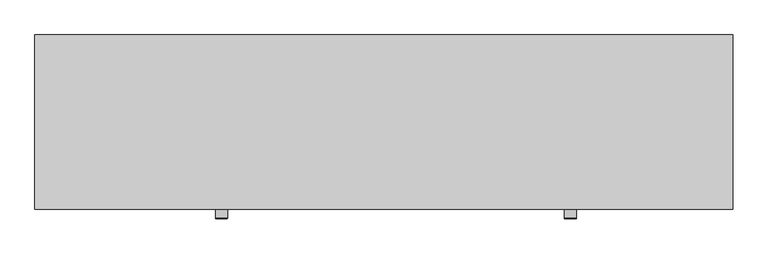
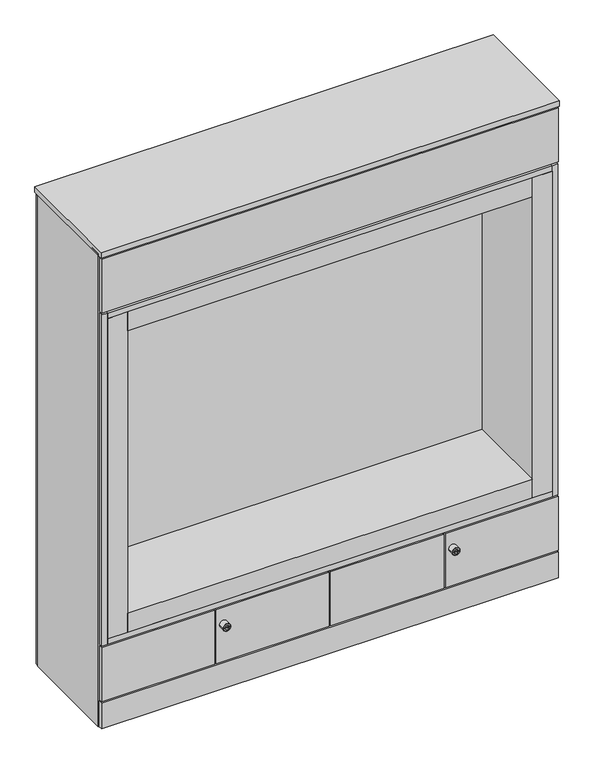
"""IFC4 building model written with IfcOpenShell, lengths in millimetres: furniture geometry, Furniture_Storage_Spacestor_SignatureStoragewall : Snugglestor Double."""

from ifc_helpers import new_model, si_unit, point, frame, origin, origin_with_axes, place, context, project, spatial, polyline, circle_curve, ellipse_curve, trimmed, outline, extrude, source, transform, mapped, element, save
from ifc_brep_helpers import plane_surface, cylinder_surface, revolved_surface, advanced_brep


def furniture_8fe791fa(model_context):
    return source(origin(), model_context, "Body", "SolidModel", [
        extrude(outline(polyline([(1996.5, 459.0), (3.5, 459.0), (3.5, 477.0), (1996.5, 477.0), (1996.5, 459.0)])), origin_with_axes(), (0.0, 0.0, 1.0), 2166.0),
        extrude(outline(polyline([(1996.5, -18.0), (3.5, -18.0), (3.5, 0.0), (1996.5, 0.0), (1996.5, -18.0)])), origin_with_axes(), (0.0, 0.0, 1.0), 118.0),
        extrude(outline(polyline([(2000.0, -20.5), (0.0, -20.5), (0.0, 479.5), (2000.0, 479.5), (2000.0, -20.5)])), frame((0.0, 0.0, 2173.0), z_axis=(0.0, 0.0, 1.0), x_axis=(1.0, 0.0, 0.0)), (0.0, 0.0, 1.0), 25.5),
        extrude(outline(polyline([(2000.0, 0.0), (1989.0, 0.0), (1989.0, 459.0), (2000.0, 459.0), (2000.0, 0.0)])), origin_with_axes(), (0.0, 0.0, 1.0), 2180.5),
        extrude(outline(polyline([(11.0, 0.0), (0.0, 0.0), (0.0, 459.0), (11.0, 459.0), (11.0, 0.0)])), origin_with_axes(), (0.0, 0.0, 1.0), 2180.5),
        extrude(outline(polyline([(1996.5, -18.0), (3.5, -18.0), (3.5, 0.0), (1996.5, 0.0), (1996.5, -18.0)])), frame((0.0, 0.0, 1917.0), z_axis=(0.0, 0.0, 1.0), x_axis=(1.0, 0.0, 0.0)), (0.0, 0.0, 1.0), 249.0),
        extrude(outline(polyline([(1989.0, 0.0), (11.0, 0.0), (11.0, 459.0), (1989.0, 459.0), (1989.0, 0.0)])), frame((0.0, 0.0, 1902.5), z_axis=(0.0, 0.0, 1.0), x_axis=(1.0, 0.0, 0.0)), (0.0, 0.0, 1.0), 22.0),
        extrude(outline(polyline([(1970.5, 398.0), (1970.5, 361.0), (29.5, 361.0), (29.5, 398.0), (1970.5, 398.0)])), frame((0.0, 0.0, 406.5), z_axis=(0.0, 0.0, 1.0), x_axis=(1.0, 0.0, 0.0)), (0.0, 0.0, 1.0), 1476.0),
        extrude(outline(polyline([(1970.5, -18.0), (1883.5, -18.0), (1883.5, 361.0), (1970.5, 361.0), (1970.5, -18.0)])), frame((0.0, 0.0, 406.5), z_axis=(0.0, 0.0, 1.0), x_axis=(1.0, 0.0, 0.0)), (0.0, 0.0, 1.0), 1476.0),
        extrude(outline(polyline([(116.5, -18.0), (29.5, -18.0), (29.5, 361.0), (116.5, 361.0), (116.5, -18.0)])), frame((0.0, 0.0, 406.5), z_axis=(0.0, 0.0, 1.0), x_axis=(1.0, 0.0, 0.0)), (0.0, 0.0, 1.0), 1476.0),
        extrude(outline(polyline([(1883.5, -18.0), (116.5, -18.0), (116.5, 361.0), (1883.5, 361.0), (1883.5, -18.0)])), frame((0.0, 0.0, 406.5), z_axis=(0.0, 0.0, 1.0), x_axis=(1.0, 0.0, 0.0)), (0.0, 0.0, 1.0), 87.0),
        extrude(outline(polyline([(1883.5, -18.0), (116.5, -18.0), (116.5, 361.0), (1883.5, 361.0), (1883.5, -18.0)])), frame((0.0, 0.0, 1795.5), z_axis=(0.0, 0.0, 1.0), x_axis=(1.0, 0.0, 0.0)), (0.0, 0.0, 1.0), 87.0),
        extrude(outline(polyline([(1003.5, -18.0), (1003.5, 0.0), (1496.5, 0.0), (1496.5, -18.0), (1003.5, -18.0)])), frame((0.0, 0.0, 125.0), z_axis=(0.0, 0.0, 1.0), x_axis=(1.0, 0.0, 0.0)), (0.0, 0.0, 1.0), 249.0),
        extrude(outline(polyline([(1996.5, -18.0), (1503.5, -18.0), (1503.5, 0.0), (1996.5, 0.0), (1996.5, -18.0)])), frame((0.0, 0.0, 125.0), z_axis=(0.0, 0.0, 1.0), x_axis=(1.0, 0.0, 0.0)), (0.0, 0.0, 1.0), 249.0),
        advanced_brep(
        [(1552.0, -45.3116344, 299.0), (1518.0, -45.3116344, 299.0), (1518.0, -18.0, 299.0), (1552.0, -18.0, 299.0), (1535.0, -18.0, 299.0), (1543.9747319, -46.3150077, 299.0), (1526.0252681, -46.3150077, 299.0), (1519.0033734, -46.3150077, 299.0), (1550.9966266, -46.3150077, 299.0), (1543.9747319, -47.4703043, 299.0), (1526.0252681, -47.4703043, 299.0), (1539.8245152, -47.4703043, 299.0), (1539.8245152, -47.4703043, 297.6366562), (1530.1754848, -47.4703043, 297.6366562), (1530.1754848, -47.4703043, 299.0), (1530.1754848, -47.4703043, 300.3633438), (1539.8245152, -47.4703043, 300.3633438), (1530.1754848, -27.8604291, 297.6366562), (1539.8245152, -27.8604291, 297.6366562), (1539.8245152, -27.8604291, 300.3633438), (1530.1754848, -27.8604291, 300.3633438)],
        [
            (0, 1, circle_curve(frame((1535.0, -45.3116344, 299.0), z_axis=(0.0, 1.0, 0.0), x_axis=(-1.0, 0.0, 0.0)), 17.0)),
            (1, 2),
            (2, 3, circle_curve(frame((1535.0, -18.0, 299.0), z_axis=(0.0, -1.0, 0.0), x_axis=(-1.0, 0.0, 0.0)), 17.0)),
            (3, 0),
            (1, 0, circle_curve(frame((1535.0, -45.3116344, 299.0), z_axis=(0.0, 1.0, 0.0), x_axis=(-1.0, 0.0, 0.0)), 17.0)),
            (3, 2, circle_curve(frame((1535.0, -18.0, 299.0), z_axis=(0.0, -1.0, 0.0), x_axis=(-1.0, 0.0, 0.0)), 17.0)),
            (2, 4),
            (4, 3),
            (5, 6, circle_curve(frame((1535.0, -46.3150077, 299.0), z_axis=(0.0, 1.0, 0.0), x_axis=(-1.0, 0.0, 0.0)), 8.9747319)),
            (6, 7),
            (7, 8, circle_curve(frame((1535.0, -46.3150077, 299.0), z_axis=(0.0, -1.0, 0.0), x_axis=(-1.0, 0.0, 0.0)), 15.9966266)),
            (8, 5),
            (6, 5, circle_curve(frame((1535.0, -46.3150077, 299.0), z_axis=(0.0, 1.0, 0.0), x_axis=(-1.0, 0.0, 0.0)), 8.9747319)),
            (8, 7, circle_curve(frame((1535.0, -46.3150077, 299.0), z_axis=(0.0, -1.0, 0.0), x_axis=(-1.0, 0.0, 0.0)), 15.9966266)),
            (0, 8, circle_curve(frame((1550.9966266, -45.3116344, 299.0), z_axis=(0.0, 0.0, -1.0), x_axis=(1.0, 0.0, 0.0)), 1.0033734)),
            (7, 1, circle_curve(frame((1519.0033734, -45.3116344, 299.0), z_axis=(0.0, 0.0, -1.0), x_axis=(-1.0, 0.0, 0.0)), 1.0033734)),
            (5, 9),
            (9, 10, circle_curve(frame((1535.0, -47.4703043, 299.0), z_axis=(0.0, 1.0, 0.0), x_axis=(-1.0, 0.0, 0.0)), 8.9747319)),
            (10, 6),
            (10, 9, circle_curve(frame((1535.0, -47.4703043, 299.0), z_axis=(0.0, 1.0, 0.0), x_axis=(-1.0, 0.0, 0.0)), 8.9747319)),
            (9, 11),
            (11, 12),
            (12, 13),
            (13, 14),
            (14, 10),
            (14, 15),
            (15, 16),
            (16, 11),
            (17, 18),
            (18, 19),
            (19, 20),
            (20, 17),
            (17, 13),
            (12, 18),
            (16, 19),
            (15, 20),
        ],
        [
            cylinder_surface(frame((1535.0, -2627.0581012, 299.0), z_axis=(0.0, -1.0, 0.0), x_axis=(-1.0, 0.0, 0.0)), 17.0),
            plane_surface(frame((1535.0, -18.0, 299.0), z_axis=(0.0, 1.0, 0.0), x_axis=(-1.0, 0.0, 0.0))),
            plane_surface(frame((1535.0, -46.3150077, 299.0), z_axis=(0.0, -1.0, 0.0), x_axis=(-1.0, 0.0, 0.0))),
            revolved_surface(trimmed(ellipse_curve(frame((1519.0033734, -45.3116344, 299.0), z_axis=(0.0, 0.0, 1.0), x_axis=(-1.0, 0.0, 0.0)), 1.0033734, 1.0033734), [point((1518.0, -45.3116344, 299.0))], [point((1519.0033734, -46.3150077, 299.0))], True, "CARTESIAN"), (1535.0, -2627.0581012, 299.0), (0.0, -1.0, 0.0)),
            cylinder_surface(frame((1535.0, -2627.0581012, 299.0), z_axis=(0.0, -1.0, 0.0), x_axis=(-1.0, 0.0, 0.0)), 8.9747319),
            plane_surface(frame((1535.0, -47.4703043, 299.0), z_axis=(0.0, -1.0, 0.0), x_axis=(-1.0, 0.0, 0.0))),
            plane_surface(frame((1539.4565249, -27.8604291, 297.6366562), z_axis=(0.0, -1.0, 0.0), x_axis=(-1.0, 0.0, 0.0))),
            plane_surface(frame((1530.1754848, -49.2046383, 297.6366562), z_axis=(0.0, 0.0, 1.0), x_axis=(0.0, 1.0, 0.0))),
            plane_surface(frame((1539.8245152, -49.2046383, 297.6366562), z_axis=(-1.0, 0.0, 0.0), x_axis=(0.0, 1.0, 0.0))),
            plane_surface(frame((1539.8245152, -49.2046383, 300.3633438), z_axis=(0.0, 0.0, -1.0), x_axis=(0.0, 1.0, 0.0))),
            plane_surface(frame((1530.1754848, -49.2046383, 300.3633438), z_axis=(1.0, 0.0, 0.0), x_axis=(0.0, 1.0, 0.0))),
        ],
        [
            (0, [[1, 2, 3, 4]]),
            (0, [[-2, 5, -4, 6]]),
            (1, [[-3, 7, 8]]),
            (1, [[-6, -8, -7]]),
            (2, [[9, 10, 11, 12]]),
            (2, [[-10, 13, -12, 14]]),
            (3, [[-1, 15, -11, 16]]),
            (3, [[-5, -16, -14, -15]]),
            (4, [[-9, 17, 18, 19]]),
            (4, [[-13, -19, 20, -17]]),
            (5, [[-18, 21, 22, 23, 24, 25]]),
            (5, [[-20, -25, 26, 27, 28, -21]]),
            (6, [[29, 30, 31, 32]]),
            (7, [[-29, 33, -23, 34]]),
            (8, [[-30, -34, -22, -28, 35]]),
            (9, [[-31, -35, -27, 36]]),
            (10, [[-32, -36, -26, -24, -33]]),
        ],
    ),
        extrude(outline(polyline([(1989.0, 0.0), (11.0, 0.0), (11.0, 459.0), (1989.0, 459.0), (1989.0, 0.0)])), frame((0.0, 0.0, 110.5), z_axis=(0.0, 0.0, 1.0), x_axis=(1.0, 0.0, 0.0)), (0.0, 0.0, 1.0), 22.0),
        extrude(outline(polyline([(1989.0, 0.0), (11.0, 0.0), (11.0, 459.0), (1989.0, 459.0), (1989.0, 0.0)])), frame((0.0, 0.0, 2158.0), z_axis=(0.0, 0.0, 1.0), x_axis=(1.0, 0.0, 0.0)), (0.0, 0.0, 1.0), 22.0),
        extrude(outline(polyline([(1989.0, 0.0), (11.0, 0.0), (11.0, 459.0), (1989.0, 459.0), (1989.0, 0.0)])), frame((0.0, 0.0, 366.5), z_axis=(0.0, 0.0, 1.0), x_axis=(1.0, 0.0, 0.0)), (0.0, 0.0, 1.0), 22.0),
        extrude(outline(polyline([(1970.5, -18.0), (29.5, -18.0), (29.5, 416.0), (1970.5, 416.0), (1970.5, -18.0)])), frame((0.0, 0.0, 381.5), z_axis=(0.0, 0.0, 1.0), x_axis=(1.0, 0.0, 0.0)), (0.0, 0.0, 1.0), 25.0),
        extrude(outline(polyline([(29.5, -18.0), (4.5, -18.0), (4.5, 416.0), (29.5, 416.0), (29.5, -18.0)])), frame((0.0, 0.0, 381.0), z_axis=(0.0, 0.0, 1.0), x_axis=(1.0, 0.0, 0.0)), (0.0, 0.0, 1.0), 1527.0),
        extrude(outline(polyline([(1995.5, -18.0), (1970.5, -18.0), (1970.5, 416.0), (1995.5, 416.0), (1995.5, -18.0)])), frame((0.0, 0.0, 381.0), z_axis=(0.0, 0.0, 1.0), x_axis=(1.0, 0.0, 0.0)), (0.0, 0.0, 1.0), 1527.0),
        extrude(outline(polyline([(1995.5, 416.0), (4.5, 416.0), (4.5, 434.0), (1995.5, 434.0), (1995.5, 416.0)])), frame((0.0, 0.0, 381.0), z_axis=(0.0, 0.0, 1.0), x_axis=(1.0, 0.0, 0.0)), (0.0, 0.0, 1.0), 1527.0),
        extrude(outline(polyline([(1970.5, -18.0), (29.5, -18.0), (29.5, 416.0), (1970.5, 416.0), (1970.5, -18.0)])), frame((0.0, 0.0, 1882.5), z_axis=(0.0, 0.0, 1.0), x_axis=(1.0, 0.0, 0.0)), (0.0, 0.0, 1.0), 25.0),
        extrude(outline(polyline([(3.5, -18.0), (3.5, 0.0), (496.5, 0.0), (496.5, -18.0), (3.5, -18.0)])), frame((0.0, 0.0, 125.0), z_axis=(0.0, 0.0, 1.0), x_axis=(1.0, 0.0, 0.0)), (0.0, 0.0, 1.0), 249.0),
        extrude(outline(polyline([(996.5, -18.0), (503.5, -18.0), (503.5, 0.0), (996.5, 0.0), (996.5, -18.0)])), frame((0.0, 0.0, 125.0), z_axis=(0.0, 0.0, 1.0), x_axis=(1.0, 0.0, 0.0)), (0.0, 0.0, 1.0), 249.0),
        advanced_brep(
        [(552.0, -45.3116344, 299.0), (518.0, -45.3116344, 299.0), (518.0, -18.0, 299.0), (552.0, -18.0, 299.0), (535.0, -18.0, 299.0), (543.9747319, -46.3150077, 299.0), (526.0252681, -46.3150077, 299.0), (519.0033734, -46.3150077, 299.0), (550.9966266, -46.3150077, 299.0), (543.9747319, -47.4703043, 299.0), (526.0252681, -47.4703043, 299.0), (539.8245152, -47.4703043, 299.0), (539.8245152, -47.4703043, 297.6366562), (530.1754848, -47.4703043, 297.6366562), (530.1754848, -47.4703043, 299.0), (530.1754848, -47.4703043, 300.3633438), (539.8245152, -47.4703043, 300.3633438), (530.1754848, -27.8604291, 297.6366562), (539.8245152, -27.8604291, 297.6366562), (539.8245152, -27.8604291, 300.3633438), (530.1754848, -27.8604291, 300.3633438)],
        [
            (0, 1, circle_curve(frame((535.0, -45.3116344, 299.0), z_axis=(0.0, 1.0, 0.0), x_axis=(-1.0, 0.0, 0.0)), 17.0)),
            (1, 2),
            (2, 3, circle_curve(frame((535.0, -18.0, 299.0), z_axis=(0.0, -1.0, 0.0), x_axis=(-1.0, 0.0, 0.0)), 17.0)),
            (3, 0),
            (1, 0, circle_curve(frame((535.0, -45.3116344, 299.0), z_axis=(0.0, 1.0, 0.0), x_axis=(-1.0, 0.0, 0.0)), 17.0)),
            (3, 2, circle_curve(frame((535.0, -18.0, 299.0), z_axis=(0.0, -1.0, 0.0), x_axis=(-1.0, 0.0, 0.0)), 17.0)),
            (2, 4),
            (4, 3),
            (5, 6, circle_curve(frame((535.0, -46.3150077, 299.0), z_axis=(0.0, 1.0, 0.0), x_axis=(-1.0, 0.0, 0.0)), 8.9747319)),
            (6, 7),
            (7, 8, circle_curve(frame((535.0, -46.3150077, 299.0), z_axis=(0.0, -1.0, 0.0), x_axis=(-1.0, 0.0, 0.0)), 15.9966266)),
            (8, 5),
            (6, 5, circle_curve(frame((535.0, -46.3150077, 299.0), z_axis=(0.0, 1.0, 0.0), x_axis=(-1.0, 0.0, 0.0)), 8.9747319)),
            (8, 7, circle_curve(frame((535.0, -46.3150077, 299.0), z_axis=(0.0, -1.0, 0.0), x_axis=(-1.0, 0.0, 0.0)), 15.9966266)),
            (0, 8, circle_curve(frame((550.9966266, -45.3116344, 299.0), z_axis=(0.0, 0.0, -1.0), x_axis=(1.0, 0.0, 0.0)), 1.0033734)),
            (7, 1, circle_curve(frame((519.0033734, -45.3116344, 299.0), z_axis=(0.0, 0.0, -1.0), x_axis=(-1.0, 0.0, 0.0)), 1.0033734)),
            (5, 9),
            (9, 10, circle_curve(frame((535.0, -47.4703043, 299.0), z_axis=(0.0, 1.0, 0.0), x_axis=(-1.0, 0.0, 0.0)), 8.9747319)),
            (10, 6),
            (10, 9, circle_curve(frame((535.0, -47.4703043, 299.0), z_axis=(0.0, 1.0, 0.0), x_axis=(-1.0, 0.0, 0.0)), 8.9747319)),
            (9, 11),
            (11, 12),
            (12, 13),
            (13, 14),
            (14, 10),
            (14, 15),
            (15, 16),
            (16, 11),
            (17, 18),
            (18, 19),
            (19, 20),
            (20, 17),
            (17, 13),
            (12, 18),
            (16, 19),
            (15, 20),
        ],
        [
            cylinder_surface(frame((535.0, -2627.0581012, 299.0), z_axis=(0.0, -1.0, 0.0), x_axis=(-1.0, 0.0, 0.0)), 17.0),
            plane_surface(frame((535.0, -18.0, 299.0), z_axis=(0.0, 1.0, 0.0), x_axis=(-1.0, 0.0, 0.0))),
            plane_surface(frame((535.0, -46.3150077, 299.0), z_axis=(0.0, -1.0, 0.0), x_axis=(-1.0, 0.0, 0.0))),
            revolved_surface(trimmed(ellipse_curve(frame((519.0033734, -45.3116344, 299.0), z_axis=(0.0, 0.0, 1.0), x_axis=(-1.0, 0.0, 0.0)), 1.0033734, 1.0033734), [point((518.0, -45.3116344, 299.0))], [point((519.0033734, -46.3150077, 299.0))], True, "CARTESIAN"), (535.0, -2627.0581012, 299.0), (0.0, -1.0, 0.0)),
            cylinder_surface(frame((535.0, -2627.0581012, 299.0), z_axis=(0.0, -1.0, 0.0), x_axis=(-1.0, 0.0, 0.0)), 8.9747319),
            plane_surface(frame((535.0, -47.4703043, 299.0), z_axis=(0.0, -1.0, 0.0), x_axis=(-1.0, 0.0, 0.0))),
            plane_surface(frame((539.4565249, -27.8604291, 297.6366562), z_axis=(0.0, -1.0, 0.0), x_axis=(-1.0, 0.0, 0.0))),
            plane_surface(frame((530.1754848, -49.2046383, 297.6366562), z_axis=(0.0, 0.0, 1.0), x_axis=(0.0, 1.0, 0.0))),
            plane_surface(frame((539.8245152, -49.2046383, 297.6366562), z_axis=(-1.0, 0.0, 0.0), x_axis=(0.0, 1.0, 0.0))),
            plane_surface(frame((539.8245152, -49.2046383, 300.3633438), z_axis=(0.0, 0.0, -1.0), x_axis=(0.0, 1.0, 0.0))),
            plane_surface(frame((530.1754848, -49.2046383, 300.3633438), z_axis=(1.0, 0.0, 0.0), x_axis=(0.0, 1.0, 0.0))),
        ],
        [
            (0, [[1, 2, 3, 4]]),
            (0, [[-2, 5, -4, 6]]),
            (1, [[-3, 7, 8]]),
            (1, [[-6, -8, -7]]),
            (2, [[9, 10, 11, 12]]),
            (2, [[-10, 13, -12, 14]]),
            (3, [[-1, 15, -11, 16]]),
            (3, [[-5, -16, -14, -15]]),
            (4, [[-9, 17, 18, 19]]),
            (4, [[-13, -19, 20, -17]]),
            (5, [[-18, 21, 22, 23, 24, 25]]),
            (5, [[-20, -25, 26, 27, 28, -21]]),
            (6, [[29, 30, 31, 32]]),
            (7, [[-29, 33, -23, 34]]),
            (8, [[-30, -34, -22, -28, 35]]),
            (9, [[-31, -35, -27, 36]]),
            (10, [[-32, -36, -26, -24, -33]]),
        ],
    ),
    ])


if __name__ == "__main__":
    model = new_model("IFC4")
    model_context = context("Model", 3, world=origin())
    ifc_project = project(units=[si_unit("LENGTHUNIT", "METRE", prefix="MILLI")], contexts=[model_context])
    site = spatial("IfcSite", under=ifc_project)
    building = spatial("IfcBuilding", under=site)
    placement = place(None, origin())
    furniture_shape = furniture_8fe791fa(model_context)
    element("IfcFurniture", 1, ObjectType="Furniture_Storage_Spacestor_SignatureStoragewall : Snugglestor Double", at=placement, inside=building, context=model_context, shape_type="MappedRepresentation", body=[
        mapped(furniture_shape, transform((0.0, 0.0, 0.0), x_axis=(1.0, 0.0, 0.0), y_axis=(0.0, 1.0, 0.0), z_axis=(0.0, 0.0, 1.0))),
    ])
    save(model, "model.ifc")
